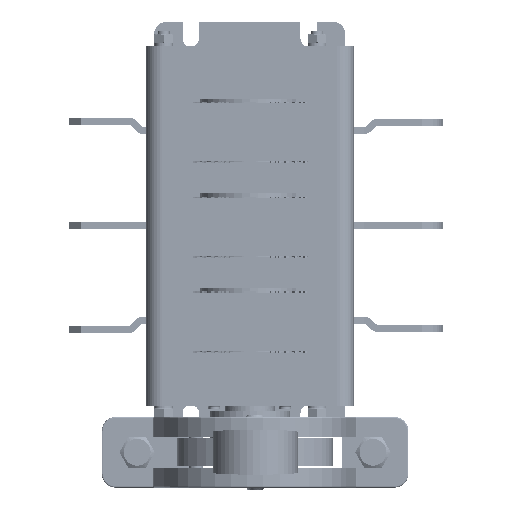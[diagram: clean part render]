
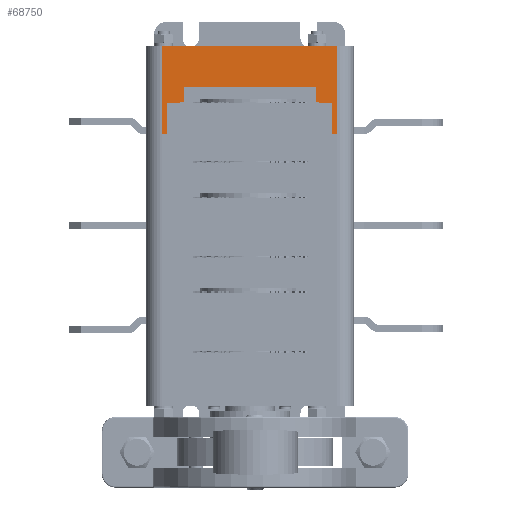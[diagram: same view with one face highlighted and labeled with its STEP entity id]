
A CAD part, left-side view. The second image highlights one B-rep face of the part: STEP entity #68750.
In plain terms, the highlighted planar face has unit normal (-1, 0, 0) as drawn and (1, 0, 0) by its records, which use the part's own axes.
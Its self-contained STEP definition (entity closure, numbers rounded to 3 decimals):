
#161 = FACE_OUTER_BOUND ( 'NONE', #3846, .T. ) ;
#1042 = VECTOR ( 'NONE', #48241, 1000. ) ;
#1217 = CARTESIAN_POINT ( 'NONE',  ( 45., 37., 3. ) ) ;
#1495 = EDGE_CURVE ( 'NONE', #84995, #63731, #1938, .T. ) ;
#1938 = LINE ( 'NONE', #74697, #80799 ) ;
#2323 = LINE ( 'NONE', #59212, #44377 ) ;
#3514 = EDGE_CURVE ( 'NONE', #78459, #84995, #2323, .T. ) ;
#3570 = VERTEX_POINT ( 'NONE', #66278 ) ;
#3846 = EDGE_LOOP ( 'NONE', ( #33339, #31218, #68393, #81946, #42734, #18082, #34096, #40264 ) ) ;
#5174 = DIRECTION ( 'NONE',  ( 0., 0., -1. ) ) ;
#6835 = CARTESIAN_POINT ( 'NONE',  ( 45., -37., 3. ) ) ;
#8608 = AXIS2_PLACEMENT_3D ( 'NONE', #48379, #73957, #81328 ) ;
#13530 = EDGE_CURVE ( 'NONE', #80668, #40201, #85320, .T. ) ;
#14118 = DIRECTION ( 'NONE',  ( 0., 1., 0. ) ) ;
#14328 = CARTESIAN_POINT ( 'NONE',  ( 45., 28., 15.2 ) ) ;
#14529 = LINE ( 'NONE', #68392, #87066 ) ;
#18082 = ORIENTED_EDGE ( 'NONE', *, *, #41097, .F. ) ;
#20377 = DIRECTION ( 'NONE',  ( 0., 0., -1. ) ) ;
#20836 = CARTESIAN_POINT ( 'NONE',  ( 45., -28., -2. ) ) ;
#22700 = EDGE_CURVE ( 'NONE', #80668, #63731, #37082, .T. ) ;
#24135 = LINE ( 'NONE', #1217, #1042 ) ;
#25288 = CARTESIAN_POINT ( 'NONE',  ( 45., -28., 18. ) ) ;
#25632 = EDGE_CURVE ( 'NONE', #35045, #78459, #73390, .T. ) ;
#27678 = CARTESIAN_POINT ( 'NONE',  ( 45., 37., 18. ) ) ;
#31218 = ORIENTED_EDGE ( 'NONE', *, *, #3514, .F. ) ;
#32320 = DIRECTION ( 'NONE',  ( 0., 1., 0. ) ) ;
#33339 = ORIENTED_EDGE ( 'NONE', *, *, #1495, .F. ) ;
#34096 = ORIENTED_EDGE ( 'NONE', *, *, #13530, .F. ) ;
#35045 = VERTEX_POINT ( 'NONE', #36461 ) ;
#36461 = CARTESIAN_POINT ( 'NONE',  ( 45., -37., 18. ) ) ;
#37082 = LINE ( 'NONE', #14328, #60091 ) ;
#37514 = LINE ( 'NONE', #6835, #53123 ) ;
#38547 = CARTESIAN_POINT ( 'NONE',  ( 45., -37., -19.5 ) ) ;
#40038 = CARTESIAN_POINT ( 'NONE',  ( 45., 28., -2. ) ) ;
#40201 = VERTEX_POINT ( 'NONE', #75467 ) ;
#40264 = ORIENTED_EDGE ( 'NONE', *, *, #22700, .T. ) ;
#41097 = EDGE_CURVE ( 'NONE', #40201, #3570, #24135, .T. ) ;
#41128 = DIRECTION ( 'NONE',  ( 0., 0., -1. ) ) ;
#41839 = EDGE_CURVE ( 'NONE', #3570, #67077, #14529, .T. ) ;
#42734 = ORIENTED_EDGE ( 'NONE', *, *, #41839, .F. ) ;
#44377 = VECTOR ( 'NONE', #5174, 1000. ) ;
#48241 = DIRECTION ( 'NONE',  ( 0., 0., -1. ) ) ;
#48379 = CARTESIAN_POINT ( 'NONE',  ( 45., 37., 3. ) ) ;
#52580 = EDGE_CURVE ( 'NONE', #35045, #67077, #37514, .T. ) ;
#52632 = VECTOR ( 'NONE', #67918, 1000. ) ;
#53123 = VECTOR ( 'NONE', #20377, 1000. ) ;
#53954 = PLANE ( 'NONE',  #8608 ) ;
#55770 = CARTESIAN_POINT ( 'NONE',  ( 45., 28., 18. ) ) ;
#59212 = CARTESIAN_POINT ( 'NONE',  ( 45., -28., 15.2 ) ) ;
#60091 = VECTOR ( 'NONE', #41128, 1000. ) ;
#63731 = VERTEX_POINT ( 'NONE', #40038 ) ;
#66278 = CARTESIAN_POINT ( 'NONE',  ( 45., 37., -19.5 ) ) ;
#67077 = VERTEX_POINT ( 'NONE', #38547 ) ;
#67918 = DIRECTION ( 'NONE',  ( 0., 1., 0. ) ) ;
#68392 = CARTESIAN_POINT ( 'NONE',  ( 45., -37., -19.5 ) ) ;
#68393 = ORIENTED_EDGE ( 'NONE', *, *, #25632, .F. ) ;
#68675 = DIRECTION ( 'NONE',  ( 0., -1., 0. ) ) ;
#68750 = ADVANCED_FACE ( 'NONE', ( #161 ), #53954, .F. ) ;
#72194 = CARTESIAN_POINT ( 'NONE',  ( 45., -28., 18. ) ) ;
#73390 = LINE ( 'NONE', #25288, #79754 ) ;
#73957 = DIRECTION ( 'NONE',  ( -1., 0., 0. ) ) ;
#74697 = CARTESIAN_POINT ( 'NONE',  ( 45., -28., -2. ) ) ;
#75467 = CARTESIAN_POINT ( 'NONE',  ( 45., 37., 18. ) ) ;
#78459 = VERTEX_POINT ( 'NONE', #72194 ) ;
#79754 = VECTOR ( 'NONE', #32320, 1000. ) ;
#80668 = VERTEX_POINT ( 'NONE', #55770 ) ;
#80799 = VECTOR ( 'NONE', #14118, 1000. ) ;
#81328 = DIRECTION ( 'NONE',  ( 0., -1., 0. ) ) ;
#81946 = ORIENTED_EDGE ( 'NONE', *, *, #52580, .T. ) ;
#84995 = VERTEX_POINT ( 'NONE', #20836 ) ;
#85320 = LINE ( 'NONE', #27678, #52632 ) ;
#87066 = VECTOR ( 'NONE', #68675, 1000. ) ;
